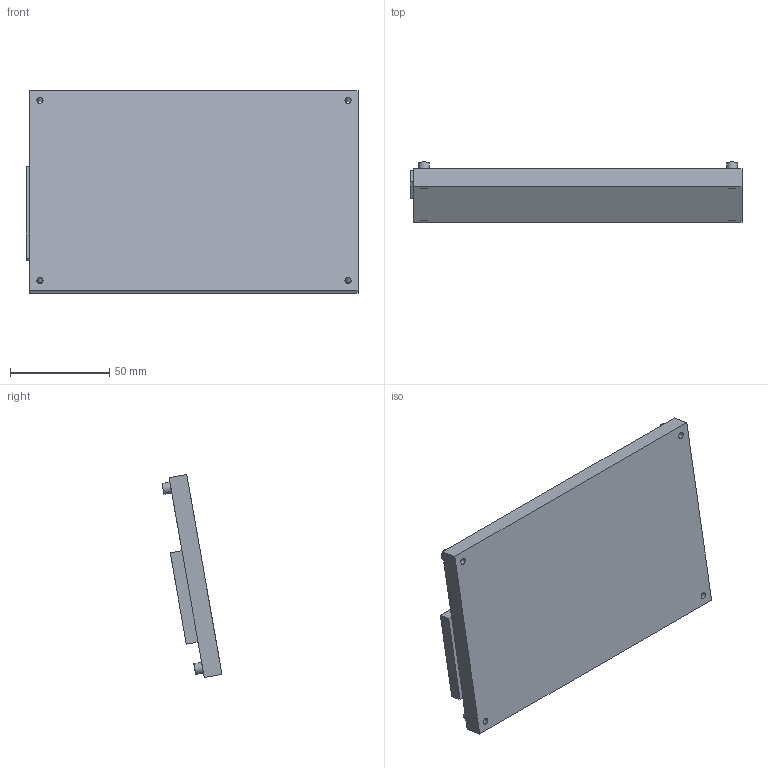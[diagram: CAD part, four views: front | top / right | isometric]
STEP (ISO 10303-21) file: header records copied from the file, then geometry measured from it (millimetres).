
FILE_DESCRIPTION(/* description */ ('STEP AP242 Edition 2','CAx-IF Rec.Pracs.---Representation and Presentation of Product Manufacturing Information (PMI)---4.0---2014-10-13','CAx-IF Rec.Pracs.---3D Tessellated Geometry---0.4---2014-09-14','2;1','CAx-IF Rec.Pracs.---User Defined Attributes---1.5---2016-08-15'),/* implementation_level */ '2;1');
FILE_NAME(/* name */ 'Assy_ForMFG - 7INLCD_3_1_1_1',/* time_stamp */ '2026-05-15T19:56:08Z',/* author */ (''),/* organization */ (''),/* preprocessor_version */ 'ST-DEVELOPER v20',/* originating_system */ 'ONSHAPE BY PTC INC, 1.215',/* authorisation */ ' ');
FILE_SCHEMA (('AP242_MANAGED_MODEL_BASED_3D_ENGINEERING_MIM_LF { 1 0 10303 442 3 1 4 }'));
Length unit declared in the file: metre
Products named in the file (1): 7INLCD_3_1_1_1
Bounding box: 166.9 x 30.12 x 102.01 mm (x, y, z)
Volume: 160885.1 mm3; surface area: 40870.1 mm2
Topology: 1 solids, 1 shells, 28 faces, 64 edges, 42 vertices
Faces by surface type: plane 20, cylinder 8
Full cylindrical faces by diameter (mm): 3.1 x4, 5.5 x4
Entity records: 786 total; most frequent: DIRECTION 130, CARTESIAN_POINT 127, ORIENTED_EDGE 112, EDGE_CURVE 56, EDGE_LOOP 48, FACE_BOUND 48, AXIS2_PLACEMENT_3D 45, VERTEX_POINT 42
